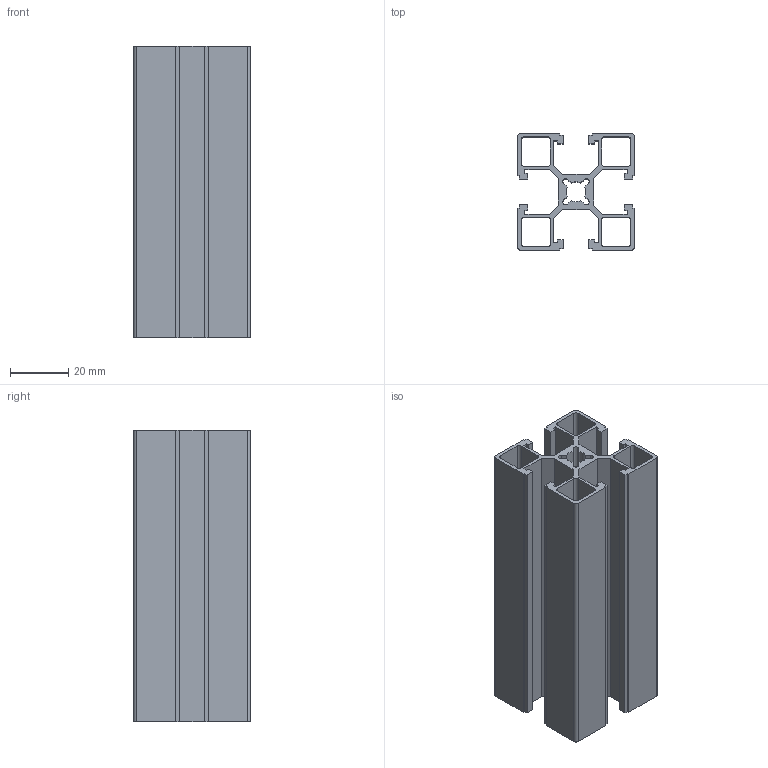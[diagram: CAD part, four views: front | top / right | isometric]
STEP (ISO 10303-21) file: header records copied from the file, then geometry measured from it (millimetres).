
FILE_DESCRIPTION(/* description */ (''),/* implementation_level */ '2;1');
FILE_NAME(/* name */ 'C:\Users\Owner\Documents\硯聰\Inv材料庫-自訂\AM\AM8\AM8-P4040-100L.stp',/* time_stamp */ '2019-05-02T09:04:04+08:00',/* author */ ('Owner'),/* organization */ (''),/* preprocessor_version */ 'ST-DEVELOPER v16.1',/* originating_system */ 'Autodesk Inventor 2016',/* authorisation */ '');
FILE_SCHEMA (('AUTOMOTIVE_DESIGN { 1 0 10303 214 3 1 1 }'));
Length unit declared in the file: millimetre
Products named in the file (1): AM8-P4040-100L
Bounding box: 40 x 40 x 100 mm (x, y, z)
Volume: 39271 mm3; surface area: 52747.4 mm2
Topology: 1 solids, 1 shells, 130 faces, 384 edges, 256 vertices
Faces by surface type: plane 102, cylinder 28
Entity records: 4348 total; most frequent: CARTESIAN_POINT 771, ORIENTED_EDGE 768, DIRECTION 702, EDGE_CURVE 384, LINE 328, VECTOR 328, VERTEX_POINT 256, AXIS2_PLACEMENT_3D 187
